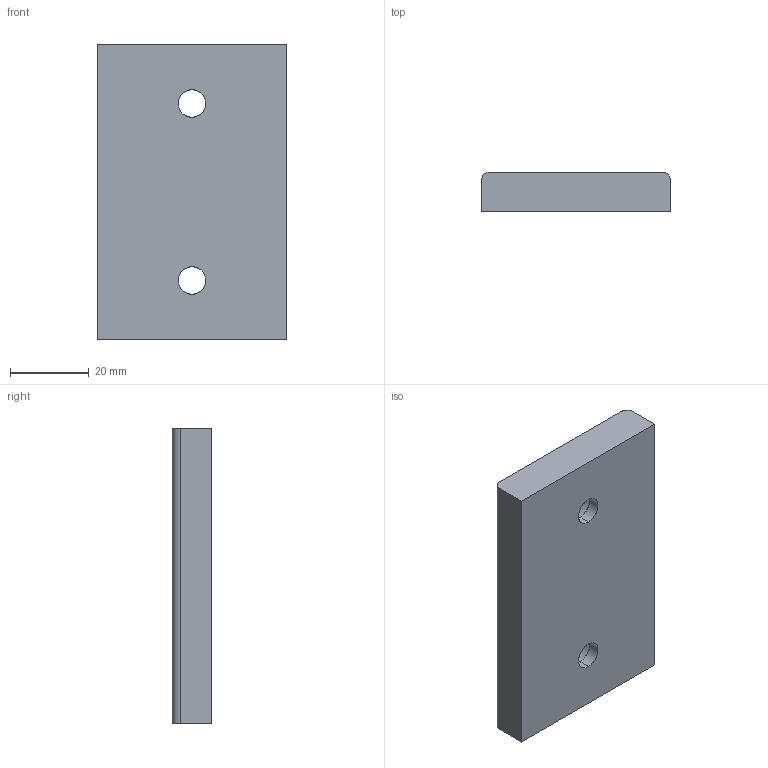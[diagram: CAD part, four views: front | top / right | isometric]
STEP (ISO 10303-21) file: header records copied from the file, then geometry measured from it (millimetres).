
FILE_DESCRIPTION(('CATIA V5 STEP Exchange'),'2;1');
FILE_NAME('C:\Users\Utente\Desktop\3D files A606\A606-048-075.stp','2020-04-13T18:04:55+00:00',('none'),('none'),'CATIA Version 5 Release 20 GA (IN-10)','CATIA V5 STEP AP203','none');
FILE_SCHEMA(('CONFIG_CONTROL_DESIGN'));
Length unit declared in the file: millimetre
Products named in the file (1): Noname
Bounding box: 48 x 10 x 75 mm (x, y, z)
Surface area: 9989.6 mm2 (no closed solid volume)
Topology: 0 solids, 14 shells, 18 faces, 76 edges, 68 vertices
Faces by surface type: cylinder 10, extrusion 8
Entity records: 1044 total; most frequent: CARTESIAN_POINT 415, DIRECTION 84, ORIENTED_EDGE 84, EDGE_CURVE 76, VERTEX_POINT 68, VECTOR 44, LINE 36, AXIS2_PLACEMENT_3D 31
